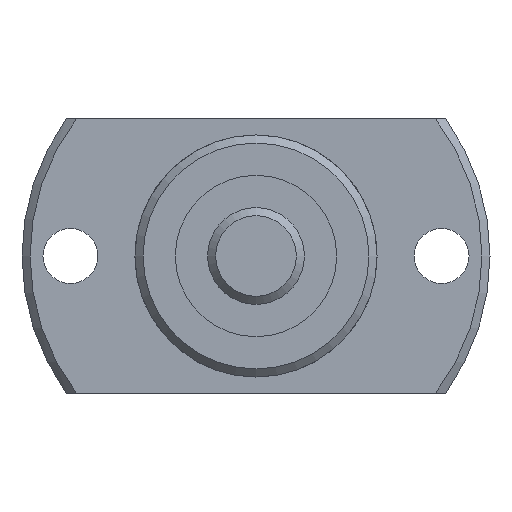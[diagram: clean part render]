
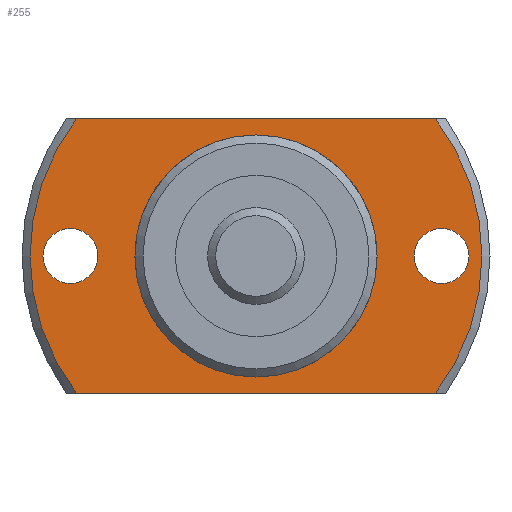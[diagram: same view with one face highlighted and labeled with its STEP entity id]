
A CAD part, left-side view. The second image highlights one B-rep face of the part: STEP entity #255.
In plain terms, the highlighted planar face has unit normal (-1, 0, 0).
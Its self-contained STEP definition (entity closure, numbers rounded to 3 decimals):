
#255 = ADVANCED_FACE( '', ( #521, #522, #523, #524 ), #525, .F. );
#521 = FACE_OUTER_BOUND( '', #783, .T. );
#522 = FACE_BOUND( '', #784, .T. );
#523 = FACE_BOUND( '', #785, .T. );
#524 = FACE_BOUND( '', #786, .T. );
#525 = PLANE( '', #787 );
#783 = EDGE_LOOP( '', ( #1301, #1302, #1303, #1304 ) );
#784 = EDGE_LOOP( '', ( #1305 ) );
#785 = EDGE_LOOP( '', ( #1306 ) );
#786 = EDGE_LOOP( '', ( #1307 ) );
#787 = AXIS2_PLACEMENT_3D( '', #1308, #1309, #1310 );
#1301 = ORIENTED_EDGE( '', *, *, #1597, .F. );
#1302 = ORIENTED_EDGE( '', *, *, #1488, .T. );
#1303 = ORIENTED_EDGE( '', *, *, #1558, .F. );
#1304 = ORIENTED_EDGE( '', *, *, #1515, .T. );
#1305 = ORIENTED_EDGE( '', *, *, #1468, .T. );
#1306 = ORIENTED_EDGE( '', *, *, #1555, .T. );
#1307 = ORIENTED_EDGE( '', *, *, #1433, .T. );
#1308 = CARTESIAN_POINT( '', ( 14., 7.3, 0. ) );
#1309 = DIRECTION( '', ( 1., 0., 0. ) );
#1310 = DIRECTION( '', ( 0., 0., -1. ) );
#1433 = EDGE_CURVE( '', #1672, #1672, #1673, .T. );
#1468 = EDGE_CURVE( '', #1729, #1729, #1730, .T. );
#1488 = EDGE_CURVE( '', #1763, #1761, #1764, .T. );
#1515 = EDGE_CURVE( '', #1805, #1803, #1806, .T. );
#1555 = EDGE_CURVE( '', #1867, #1867, #1868, .T. );
#1558 = EDGE_CURVE( '', #1805, #1761, #1872, .T. );
#1597 = EDGE_CURVE( '', #1763, #1803, #1916, .T. );
#1672 = VERTEX_POINT( '', #2014 );
#1673 = CIRCLE( '', #2015, 7.3 );
#1729 = VERTEX_POINT( '', #2093 );
#1730 = CIRCLE( '', #2094, 1.7 );
#1761 = VERTEX_POINT( '', #2133 );
#1763 = VERTEX_POINT( '', #2138 );
#1764 = LINE( '', #2139, #2140 );
#1803 = VERTEX_POINT( '', #2206 );
#1805 = VERTEX_POINT( '', #2211 );
#1806 = LINE( '', #2212, #2213 );
#1867 = VERTEX_POINT( '', #2308 );
#1868 = CIRCLE( '', #2309, 1.7 );
#1872 = CIRCLE( '', #2313, 14. );
#1916 = CIRCLE( '', #2366, 14. );
#2014 = CARTESIAN_POINT( '', ( 14., 0., -7.3 ) );
#2015 = AXIS2_PLACEMENT_3D( '', #2436, #2437, #2438 );
#2093 = CARTESIAN_POINT( '', ( 14., 11.5, -1.7 ) );
#2094 = AXIS2_PLACEMENT_3D( '', #2488, #2489, #2490 );
#2133 = CARTESIAN_POINT( '', ( 14., -11.124, -8.5 ) );
#2138 = CARTESIAN_POINT( '', ( 14., 11.124, -8.5 ) );
#2139 = CARTESIAN_POINT( '', ( 14., 7.3, -8.5 ) );
#2140 = VECTOR( '', #2511, 1000. );
#2206 = CARTESIAN_POINT( '', ( 14., 11.124, 8.5 ) );
#2211 = CARTESIAN_POINT( '', ( 14., -11.124, 8.5 ) );
#2212 = CARTESIAN_POINT( '', ( 14., 7.3, 8.5 ) );
#2213 = VECTOR( '', #2539, 1000. );
#2308 = CARTESIAN_POINT( '', ( 14., -11.5, -1.7 ) );
#2309 = AXIS2_PLACEMENT_3D( '', #2585, #2586, #2587 );
#2313 = AXIS2_PLACEMENT_3D( '', #2591, #2592, #2593 );
#2366 = AXIS2_PLACEMENT_3D( '', #2633, #2634, #2635 );
#2436 = CARTESIAN_POINT( '', ( 14., 0., 0. ) );
#2437 = DIRECTION( '', ( 1., 0., 0. ) );
#2438 = DIRECTION( '', ( 0., 0., -1. ) );
#2488 = CARTESIAN_POINT( '', ( 14., 11.5, 0. ) );
#2489 = DIRECTION( '', ( 1., 0., 0. ) );
#2490 = DIRECTION( '', ( 0., 0., -1. ) );
#2511 = DIRECTION( '', ( 0., -1., 0. ) );
#2539 = DIRECTION( '', ( 0., 1., 0. ) );
#2585 = CARTESIAN_POINT( '', ( 14., -11.5, 0. ) );
#2586 = DIRECTION( '', ( 1., 0., 0. ) );
#2587 = DIRECTION( '', ( 0., 0., -1. ) );
#2591 = CARTESIAN_POINT( '', ( 14., 0., 0. ) );
#2592 = DIRECTION( '', ( 1., 0., 0. ) );
#2593 = DIRECTION( '', ( 0., 0., -1. ) );
#2633 = CARTESIAN_POINT( '', ( 14., 0., 0. ) );
#2634 = DIRECTION( '', ( 1., 0., 0. ) );
#2635 = DIRECTION( '', ( 0., 0., -1. ) );
